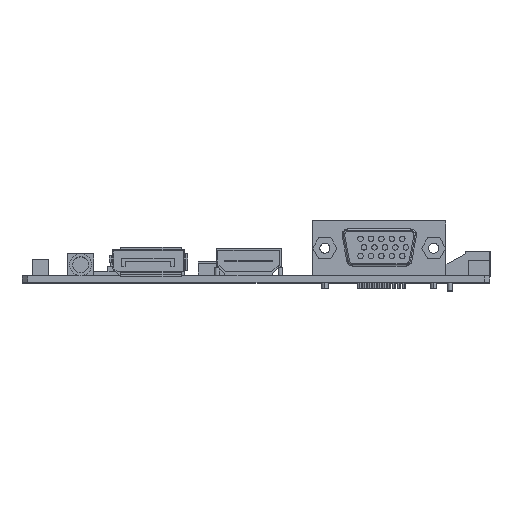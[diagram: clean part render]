
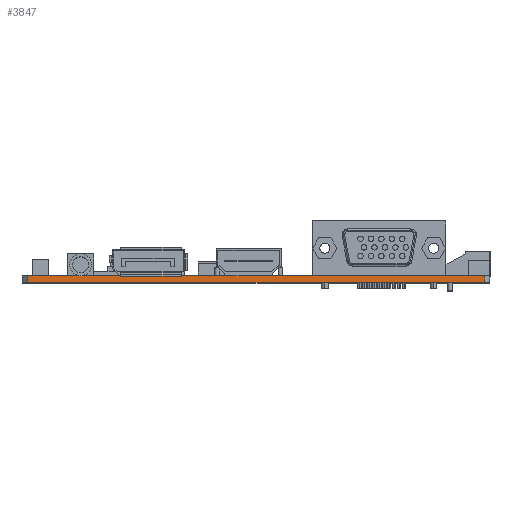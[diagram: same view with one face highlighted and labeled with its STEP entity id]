
A CAD part, top view. The second image highlights one B-rep face of the part: STEP entity #3847.
In plain terms, the highlighted planar face has unit normal (0, 0, 1).
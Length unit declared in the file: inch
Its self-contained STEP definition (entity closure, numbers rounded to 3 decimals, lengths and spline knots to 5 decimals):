
#315 = CARTESIAN_POINT ( 'NONE',  ( -2.11496, 0.0625, 1.80256 ) ) ;
#963 = CARTESIAN_POINT ( 'NONE',  ( -2.11496, 0.0625, 1.80256 ) ) ;
#977 = EDGE_CURVE ( 'NONE', #23773, #2637, #1845, .T. ) ;
#997 = CARTESIAN_POINT ( 'NONE',  ( 2.06496, 0.0625, 1.80256 ) ) ;
#1417 = VECTOR ( 'NONE', #9059, 39.37008 ) ;
#1716 = CARTESIAN_POINT ( 'NONE',  ( -2.11496, 0., 1.80256 ) ) ;
#1845 = LINE ( 'NONE', #1716, #16114 ) ;
#2637 = VERTEX_POINT ( 'NONE', #18618 ) ;
#2730 = EDGE_LOOP ( 'NONE', ( #19112, #15187, #10326, #20173 ) ) ;
#3847 = ADVANCED_FACE ( 'NONE', ( #17886 ), #4824, .F. ) ;
#4119 = CARTESIAN_POINT ( 'NONE',  ( -2.06496, 0.0625, 1.80256 ) ) ;
#4824 = PLANE ( 'NONE',  #12499 ) ;
#5594 = VERTEX_POINT ( 'NONE', #997 ) ;
#8347 = LINE ( 'NONE', #23543, #1417 ) ;
#8912 = EDGE_CURVE ( 'NONE', #21513, #5594, #11390, .T. ) ;
#9059 = DIRECTION ( 'NONE',  ( 0., -1., 0. ) ) ;
#10326 = ORIENTED_EDGE ( 'NONE', *, *, #977, .T. ) ;
#11390 = LINE ( 'NONE', #315, #17188 ) ;
#11522 = VECTOR ( 'NONE', #23274, 39.37008 ) ;
#11761 = DIRECTION ( 'NONE',  ( 1., 0., 0. ) ) ;
#12163 = EDGE_CURVE ( 'NONE', #2637, #5594, #19771, .T. ) ;
#12499 = AXIS2_PLACEMENT_3D ( 'NONE', #963, #14164, #23764 ) ;
#14164 = DIRECTION ( 'NONE',  ( 0., 0., -1. ) ) ;
#15169 = DIRECTION ( 'NONE',  ( 1., 0., 0. ) ) ;
#15187 = ORIENTED_EDGE ( 'NONE', *, *, #20316, .T. ) ;
#16114 = VECTOR ( 'NONE', #15169, 39.37008 ) ;
#17188 = VECTOR ( 'NONE', #11761, 39.37008 ) ;
#17768 = CARTESIAN_POINT ( 'NONE',  ( 2.06496, 0.0625, 1.80256 ) ) ;
#17886 = FACE_OUTER_BOUND ( 'NONE', #2730, .T. ) ;
#18618 = CARTESIAN_POINT ( 'NONE',  ( 2.06496, 0., 1.80256 ) ) ;
#19112 = ORIENTED_EDGE ( 'NONE', *, *, #8912, .F. ) ;
#19771 = LINE ( 'NONE', #17768, #11522 ) ;
#20173 = ORIENTED_EDGE ( 'NONE', *, *, #12163, .T. ) ;
#20316 = EDGE_CURVE ( 'NONE', #21513, #23773, #8347, .T. ) ;
#20697 = CARTESIAN_POINT ( 'NONE',  ( -2.06496, 0., 1.80256 ) ) ;
#21513 = VERTEX_POINT ( 'NONE', #4119 ) ;
#23274 = DIRECTION ( 'NONE',  ( 0., 1., 0. ) ) ;
#23543 = CARTESIAN_POINT ( 'NONE',  ( -2.06496, 0.0625, 1.80256 ) ) ;
#23764 = DIRECTION ( 'NONE',  ( -1., 0., 0. ) ) ;
#23773 = VERTEX_POINT ( 'NONE', #20697 ) ;
